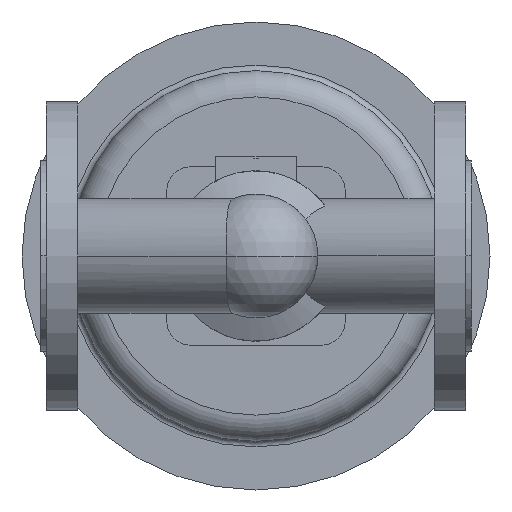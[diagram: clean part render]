
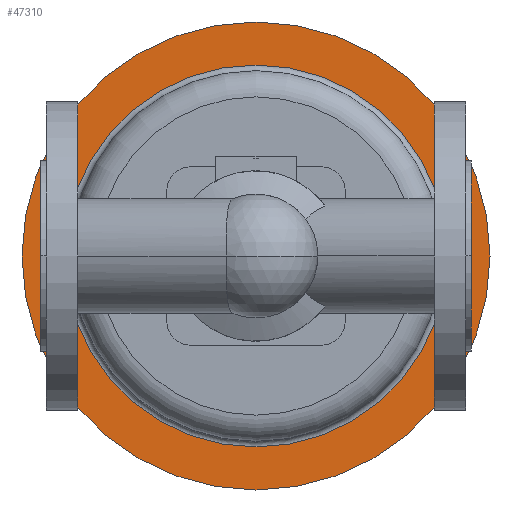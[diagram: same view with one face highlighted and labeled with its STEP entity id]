
A CAD part, front view. The second image highlights one B-rep face of the part: STEP entity #47310.
In plain terms, the highlighted planar face has unit normal (0, -1, 0).
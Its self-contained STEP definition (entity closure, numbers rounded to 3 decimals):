
#33360=CARTESIAN_POINT('',(-10.,396.,0.));
#33370=VERTEX_POINT('',#33360);
#33530=CARTESIAN_POINT('',(240.,396.,0.));
#33540=VERTEX_POINT('',#33530);
#33570=CARTESIAN_POINT('',(115.,396.,0.));
#33580=DIRECTION('',(0.,1.,0.));
#33590=DIRECTION('',(1.,0.,0.));
#33600=AXIS2_PLACEMENT_3D('',#33570,#33580,#33590);
#33610=CIRCLE('',#33600,125.);
#33620=EDGE_CURVE('',#33370,#33540,#33610,.T.);
#33790=CARTESIAN_POINT('',(217.,396.,0.));
#33800=VERTEX_POINT('',#33790);
#33830=CARTESIAN_POINT('',(115.,396.,0.));
#33840=DIRECTION('',(0.,1.,0.));
#33850=DIRECTION('',(1.,0.,0.));
#33860=AXIS2_PLACEMENT_3D('',#33830,#33840,#33850);
#33870=CIRCLE('',#33860,102.);
#33880=CARTESIAN_POINT('',(13.,396.,0.));
#33890=VERTEX_POINT('',#33880);
#33900=EDGE_CURVE('',#33800,#33890,#33870,.T.);
#47120=CARTESIAN_POINT('',(228.5,396.,0.));
#47130=DIRECTION('',(0.,-1.,0.));
#47140=DIRECTION('',(-1.,0.,0.));
#47150=AXIS2_PLACEMENT_3D('',#47120,#47130,#47140);
#47160=PLANE('',#47150);
#47170=EDGE_CURVE('',#33540,#33370,#33610,.T.);
#47180=ORIENTED_EDGE('',*,*,#47170,.F.);
#47190=ORIENTED_EDGE('',*,*,#33620,.F.);
#47200=EDGE_LOOP('',(#47190,#47180));
#47210=FACE_OUTER_BOUND('',#47200,.T.);
#47220=ORIENTED_EDGE('',*,*,#33900,.T.);
#47230=CARTESIAN_POINT('',(115.,396.,102.));
#47240=VERTEX_POINT('',#47230);
#47250=EDGE_CURVE('',#47240,#33800,#33870,.T.);
#47260=ORIENTED_EDGE('',*,*,#47250,.T.);
#47270=EDGE_CURVE('',#33890,#47240,#33870,.T.);
#47280=ORIENTED_EDGE('',*,*,#47270,.T.);
#47290=EDGE_LOOP('',(#47280,#47260,#47220));
#47300=FACE_BOUND('',#47290,.T.);
#47310=ADVANCED_FACE('',(#47210,#47300),#47160,.T.);
